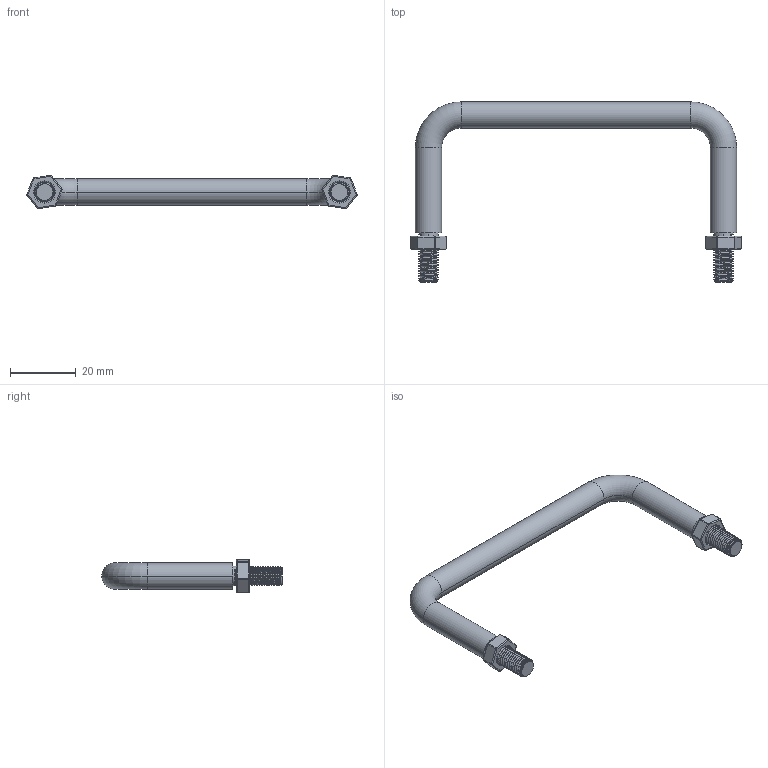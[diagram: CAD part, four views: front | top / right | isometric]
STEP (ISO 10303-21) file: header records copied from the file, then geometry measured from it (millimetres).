
FILE_DESCRIPTION (( 'STEP AP203' ), '1' );
FILE_NAME ('XG01-005-90.STEP', '2024-03-12T01:50:38', ( '' ), ( '' ), 'SwSTEP 2.0', 'SolidWorks 2020', '' );
FILE_SCHEMA (( 'CONFIG_CONTROL_DESIGN' ));
Length unit declared in the file: millimetre
Products named in the file (1): XG01-005-90
Bounding box: 100.76 x 55 x 10.18 mm (x, y, z)
Volume: 8812.2 mm3; surface area: 5432.2 mm2
Topology: 3 solids, 3 shells, 194 faces, 496 edges, 286 vertices
Faces by surface type: cylinder 124, plane 24, sphere 24, torus 10, cone 6, bspline 6
Entity records: 12869 total; most frequent: CARTESIAN_POINT 8681, ORIENTED_EDGE 944, DIRECTION 810, EDGE_CURVE 472, AXIS2_PLACEMENT_3D 317, VERTEX_POINT 286, EDGE_LOOP 200, ADVANCED_FACE 194
